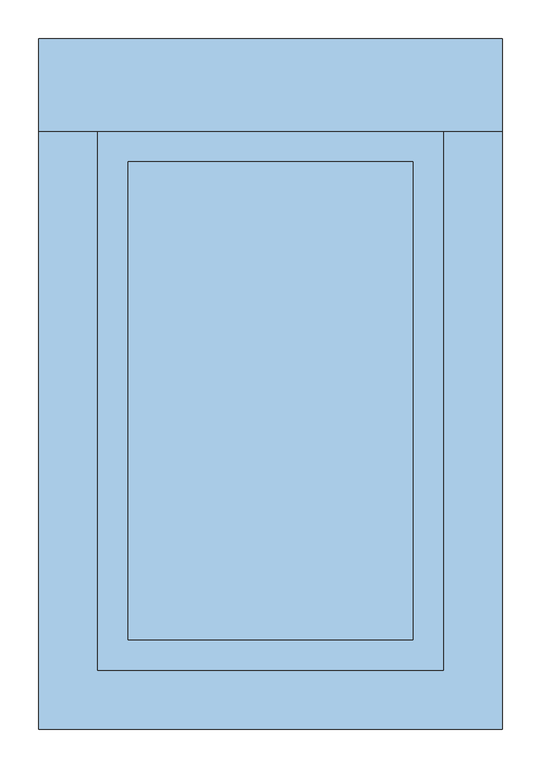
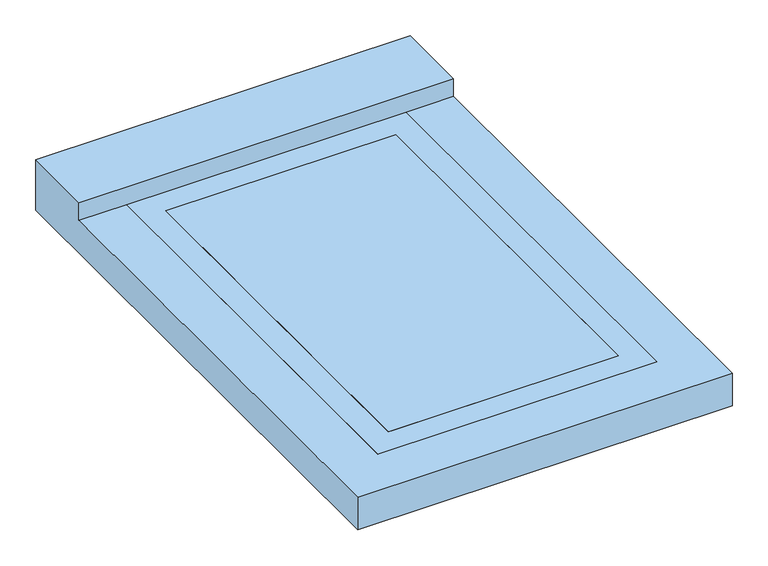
"""IFC4 building model written with IfcOpenShell, lengths in millimetres: window geometry, FR_Fenetre de Toit : 45*70."""

from ifc_helpers import new_model, si_unit, frame, origin, place, context, project, spatial, polyline, outline, extrude, faceted_brep, source, transform, mapped, element, save


def window_5f72448e(model_context):
    return source(origin(), model_context, "Body", "SolidModel", [
        extrude(outline(polyline([(185.0, -310.0), (-185.0, -310.0), (-185.0, 310.0), (185.0, 310.0), (185.0, -310.0)])), frame((0.0, 0.0, 3731.7088296), z_axis=(0.0, 0.0, 1.0), x_axis=(1.0, 0.0, 0.0)), (0.0, 0.0, 1.0), 11.2911704),
        faceted_brep([(-301.2, 470.0, 3773.0), (-301.2, 350.0, 3773.0), (301.2, 350.0, 3773.0), (301.2, 470.0, 3773.0), (301.2, 470.0, 3687.6), (-301.2, 470.0, 3687.6), (301.2, 350.0, 3743.0), (301.2, -426.2, 3743.0), (301.2, -426.2, 3687.6), (-301.2, 350.0, 3743.0), (-225.0, 350.0, 3743.0), (-225.0, 350.0, 3737.6), (-225.0, 350.0, 3687.6), (225.0, 350.0, 3687.6), (225.0, 350.0, 3737.6), (225.0, 350.0, 3743.0), (-301.2, -426.2, 3687.6), (-301.2, -426.2, 3743.0), (225.0, -350.0, 3743.0), (-225.0, -350.0, 3743.0), (225.0, -350.0, 3687.6), (-225.0, -350.0, 3687.6), (225.0, -350.0, 3737.6), (-225.0, -350.0, 3737.6)], [[[0, 1, 2, 3]], [[3, 4, 5, 0]], [[2, 6, 7, 8, 4, 3]], [[1, 9, 10, 11, 12, 13, 14, 15, 6, 2]], [[0, 5, 16, 17, 9, 1]], [[7, 6, 15, 18, 19, 10, 9, 17]], [[8, 16, 5, 4], [20, 13, 12, 21]], [[17, 16, 8, 7]], [[15, 14, 13, 20, 22, 18]], [[19, 23, 21, 12, 11, 10]], [[18, 22, 20, 21, 23, 19]]]),
        extrude(outline(polyline([(-225.0, -350.0), (-225.0, 350.0), (225.0, 350.0), (225.0, -350.0), (-225.0, -350.0)]), holes=[polyline([(185.0, 310.0), (-185.0, 310.0), (-185.0, -310.0), (185.0, -310.0), (185.0, 310.0)])]), frame((0.0, 0.0, 3737.6), z_axis=(0.0, 0.0, 1.0), x_axis=(1.0, 0.0, 0.0)), (0.0, 0.0, 1.0), 5.4),
    ])


if __name__ == "__main__":
    model = new_model("IFC4")
    model_context = context("Model", 3, world=origin())
    ifc_project = project(units=[si_unit("LENGTHUNIT", "METRE", prefix="MILLI")], contexts=[model_context])
    site = spatial("IfcSite", under=ifc_project)
    building = spatial("IfcBuilding", under=site)
    placement = place(None, origin())
    window_shape = window_5f72448e(model_context)
    element("IfcWindow", 1, ObjectType="FR_Fenetre de Toit : 45*70", at=placement, inside=building, context=model_context, shape_type="MappedRepresentation", body=[
        mapped(window_shape, transform((0.0, 0.0, 0.0), x_axis=(1.0, 0.0, 0.0), y_axis=(0.0, 1.0, 0.0), z_axis=(0.0, 0.0, 1.0))),
    ])
    save(model, "model.ifc")
